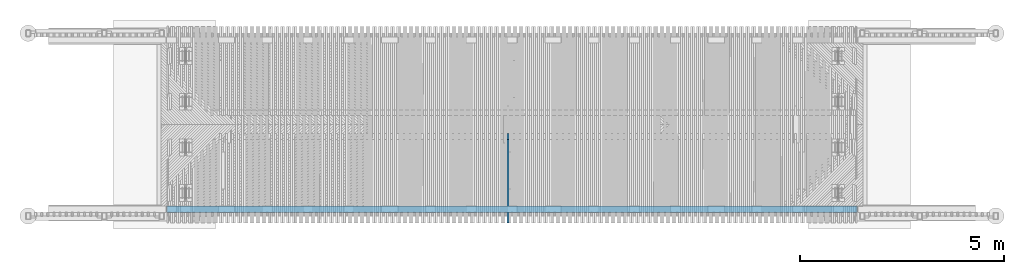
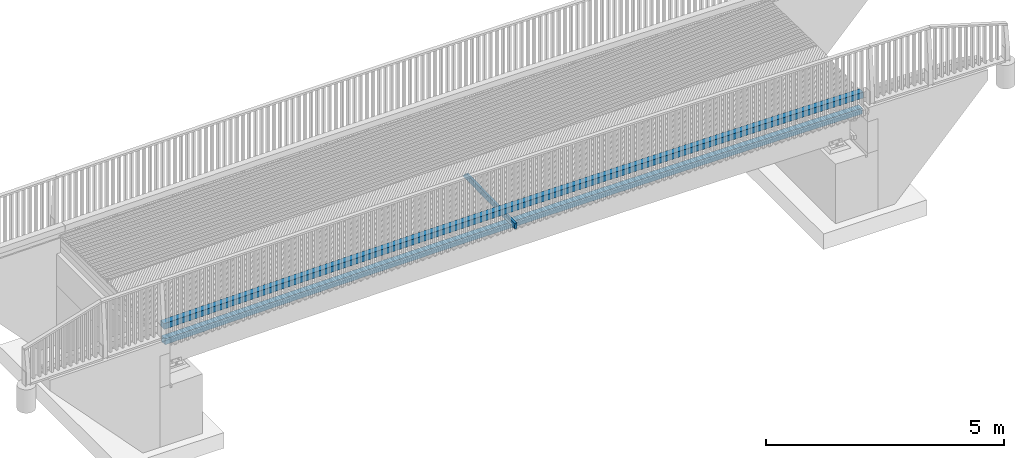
# One storey, part 22 of 47: 3 beams.
"""IFC2X3 building model written with IfcOpenShell, lengths in millimetres."""

from ifc_helpers import new_model, si_unit, frame, origin_with_axes, place, context, subcontext, project, spatial, faceted_brep, material, type_object, element, save


model = new_model("IFC2X3")

# Units and contexts
model_context = context("Model", 3, precision=1e-05, world=origin_with_axes())
body_context = subcontext(model_context, "Body", "Model", "MODEL_VIEW")
ifc_project = project(units=[si_unit("LENGTHUNIT", "METRE", prefix="MILLI"), si_unit("AREAUNIT", "SQUARE_METRE"), si_unit("VOLUMEUNIT", "CUBIC_METRE"), si_unit("MASSUNIT", "GRAM", prefix="KILO"), si_unit("TIMEUNIT", "SECOND"), si_unit("PLANEANGLEUNIT", "RADIAN"), si_unit("SOLIDANGLEUNIT", "STERADIAN"), si_unit("THERMODYNAMICTEMPERATUREUNIT", "DEGREE_CELSIUS"), si_unit("LUMINOUSINTENSITYUNIT", "LUMEN")], contexts=[model_context])

# Site, building, storey
site_placement = place(None, origin_with_axes())
site = spatial("IfcSite", under=ifc_project, at=site_placement, Name="Undefined", CompositionType="ELEMENT")
building_placement = place(site_placement, origin_with_axes())
building = spatial("IfcBuilding", under=site, at=building_placement, Name="Undefined", CompositionType="ELEMENT")
storey_placement = place(building_placement, origin_with_axes())
storey = spatial("IfcBuildingStorey", under=building, at=storey_placement, Name="Undefined", CompositionType="ELEMENT", Elevation=0.0)

# Beams
ifc_material = material(Name="TIMBER/Timber_Undefined")
beam_type_1 = type_object("IfcBeamType", Name="150*150", PredefinedType="NOTDEFINED")
beam_1_placement = place(storey_placement, frame((-101.638019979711, 60290.0049077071, 2888.62561019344), z_axis=(0.0, -1.0, 0.0), x_axis=(1.0, 0.0, 0.0)))
element("IfcBeam", 1, at=beam_1_placement, inside=storey, type_object=beam_type_1, material=ifc_material, Name="PALKKI", ObjectType="150*150", context=body_context, shape_type="Brep", body=[
    faceted_brep([(-322.982711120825, -79.4552193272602, 75.0), (-325.088810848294, 70.5299944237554, 75.0), (-347.67957067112, 70.2066726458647, 75.0), (-348.53030407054, -79.8208596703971, 75.0), (-325.088810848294, 70.5299944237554, -75.0), (-347.67957067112, 70.2066726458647, -75.0), (-322.982711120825, -79.4552193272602, -75.0), (-348.53030407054, -79.8208596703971, -75.0), (1.01255045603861, -74.9931646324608, -75.0), (1.01255045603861, -74.9931646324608, 75.0), (-1.01255045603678, 74.9931646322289, 75.0), (-1.01255045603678, 74.9931646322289, -75.0), (323.066072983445, 79.2813189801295, -75.0), (325.010174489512, -70.7060820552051, -75.0), (325.010174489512, -70.7060820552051, 75.0), (323.066072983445, 79.2813189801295, 75.0), (647.146964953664, 83.3944562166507, 75.0), (647.146964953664, 83.3944562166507, -75.0), (649.010066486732, -66.5939728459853, -75.0), (649.010066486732, -66.5939728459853, 75.0), (973.012131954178, -62.6568382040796, 75.0), (971.230030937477, 87.3325751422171, 75.0), (971.230030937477, 87.3325751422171, -75.0), (973.012131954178, -62.6568382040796, -75.0), (1297.01627639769, -58.8946792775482, -75.0), (1297.01627639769, -58.8946792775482, 75.0), (1295.3151764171, 91.0956746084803, 75.0), (1295.3151764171, 91.0956746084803, -75.0), (1619.40230687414, 94.6837535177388, -75.0), (1621.0224053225, -55.3074971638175, -75.0), (1621.0224053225, -55.3074971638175, 75.0), (1619.40230687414, 94.6837535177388, 75.0), (1943.49132778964, 98.096810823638, 75.0), (1943.49132778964, 98.096810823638, -75.0), (1945.03042423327, -51.8952929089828, -75.0), (1945.03042423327, -51.8952929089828, 75.0), (2269.04023863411, -48.6580675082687, 75.0), (2267.58214464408, 101.334845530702, 75.0), (2267.58214464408, 101.334845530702, -75.0), (2269.04023863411, -48.6580675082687, -75.0), (2593.05175402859, -45.5958219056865, -75.0), (2593.05175402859, -45.5958219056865, 75.0), (2591.67466291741, 104.397856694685, 75.0), (2591.67466291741, 104.397856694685, -75.0), (2915.7687880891, 107.285843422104, -75.0), (2917.06487591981, -42.7085569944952, -75.0), (2917.06487591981, -42.7085569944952, 75.0), (2915.7687880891, 107.285843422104, 75.0), (3239.86442563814, 109.998804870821, 75.0), (3239.86442563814, 109.998804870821, -75.0), (3241.07950981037, -39.9962736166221, -75.0), (3241.07950981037, -39.9962736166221, 75.0), (3565.09556120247, -37.4589725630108, 75.0), (3563.96148104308, 112.536740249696, 75.0), (3563.96148104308, 112.536740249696, -75.0), (3565.09556120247, -37.4589725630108, -75.0), (3889.11293559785, -35.0966545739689, -75.0), (3889.11293559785, -35.0966545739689, 75.0), (3888.05985978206, 114.899648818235, 75.0), (3888.05985978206, 114.899648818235, -75.0), (4212.15946733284, 117.087529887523, -75.0), (4213.1315384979, -32.9093203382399, -75.0), (4213.1315384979, -32.9093203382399, 75.0), (4212.15946733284, 117.087529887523, 75.0), (4536.2602091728, 119.100382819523, 75.0), (4536.2602091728, 119.100382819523, -75.0), (4537.15127540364, -30.8969704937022, -75.0), (4537.15127540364, -30.8969704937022, 75.0), (4861.17205181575, -29.0596056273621, 75.0), (4860.36199077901, 120.938207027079, 75.0), (4860.36199077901, 120.938207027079, -75.0), (4861.17205181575, -29.0596056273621, -75.0), (5185.19377323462, -27.3972262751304, -75.0), (5185.19377323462, -27.3972262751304, 75.0), (5184.46471762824, 122.601001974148, 75.0), (5184.46471762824, 122.601001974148, -75.0), (5508.56829519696, 124.088767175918, -75.0), (5509.21634516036, -25.9098329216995, -75.0), (5509.21634516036, -25.9098329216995, 75.0), (5508.56829519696, 124.088767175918, 75.0), (5832.67262896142, 125.401502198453, 75.0), (5832.67262896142, 125.401502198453, -75.0), (5833.23967309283, -24.5974260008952, -75.0), (5833.23967309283, -24.5974260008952, 75.0), (6157.26366253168, -23.4600058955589, 75.0), (6156.77762439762, 126.539206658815, 75.0), (6156.77762439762, 126.539206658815, -75.0), (6157.26366253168, -23.4600058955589, -75.0), (6481.28821897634, -22.4975729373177, -75.0), (6481.28821897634, -22.4975729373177, 75.0), (6480.88318698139, 127.501880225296, 75.0), (6480.88318698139, 127.501880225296, -75.0), (6804.9892221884, 128.289522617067, -75.0), (6805.3132479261, -21.7101274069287, -75.0), (6805.3132479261, -21.7101274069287, 75.0), (6804.9892221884, 128.289522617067, 75.0), (7129.09563549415, 128.902133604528, 75.0), (7129.09563549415, 128.902133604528, -75.0), (7129.33865488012, -21.0976695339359, -75.0), (7129.33865488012, -21.0976695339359, 75.0), (7453.36434533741, -20.6601994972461, 75.0), (7453.20233237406, 129.339713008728, 75.0), (7453.20233237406, 129.339713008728, -75.0), (7453.36434533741, -20.6601994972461, -75.0), (7777.39022479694, -20.3977174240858, -75.0), (7777.39022479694, -20.3977174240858, 75.0), (7777.30921830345, 129.602260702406, 75.0), (7777.30921830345, 129.602260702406, -75.0), (8101.4161987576, 129.689776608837, -75.0), (8101.4161987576, -20.3102233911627, -75.0), (8101.4161987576, -20.3102233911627, 75.0), (8101.4161987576, 129.689776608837, 75.0), (8425.52317921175, 129.602260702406, 75.0), (8425.52317921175, 129.602260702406, -75.0), (8425.44217271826, -20.3977174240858, -75.0), (8425.44217271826, -20.3977174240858, 75.0), (8749.46805217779, -20.6601994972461, 75.0), (8749.63006514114, 129.339713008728, 75.0), (8749.63006514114, 129.339713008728, -75.0), (8749.46805217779, -20.6601994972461, -75.0), (9073.49374263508, -21.0976695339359, -75.0), (9073.49374263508, -21.0976695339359, 75.0), (9073.73676202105, 128.902133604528, 75.0), (9073.73676202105, 128.902133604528, -75.0), (9397.8431753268, 128.289522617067, -75.0), (9397.5191495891, -21.7101274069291, -75.0), (9397.5191495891, -21.7101274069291, 75.0), (9397.8431753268, 128.289522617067, 75.0), (9721.94921053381, 127.501880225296, 75.0), (9721.94921053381, 127.501880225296, -75.0), (9721.54417853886, -22.4975729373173, -75.0), (9721.54417853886, -22.4975729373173, 75.0), (10045.5687349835, -23.4600058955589, 75.0), (10046.0547731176, 126.539206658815, 75.0), (10046.0547731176, 126.539206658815, -75.0), (10045.5687349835, -23.4600058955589, -75.0), (10369.5927244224, -24.5974260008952, -75.0), (10369.5927244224, -24.5974260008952, 75.0), (10370.1597685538, 125.401502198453, 75.0), (10370.1597685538, 125.401502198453, -75.0), (10694.2641023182, 124.088767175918, -75.0), (10693.6160523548, -25.9098329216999, -75.0), (10693.6160523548, -25.9098329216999, 75.0), (10694.2641023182, 124.088767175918, 75.0), (11018.367679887, 122.601001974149, 75.0), (11018.367679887, 122.601001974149, -75.0), (11017.6386242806, -27.3972262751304, -75.0), (11017.6386242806, -27.3972262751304, 75.0), (11341.6603456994, -29.0596056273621, 75.0), (11342.4704067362, 120.938207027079, 75.0), (11342.4704067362, 120.938207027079, -75.0), (11341.6603456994, -29.0596056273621, -75.0), (11665.6811221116, -30.8969704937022, -75.0), (11665.6811221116, -30.8969704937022, 75.0), (11666.5721883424, 119.100382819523, 75.0), (11666.5721883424, 119.100382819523, -75.0), (11990.6729301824, 117.087529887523, -75.0), (11989.7008590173, -32.9093203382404, -75.0), (11989.7008590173, -32.9093203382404, 75.0), (11990.6729301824, 117.087529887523, 75.0), (12314.7725377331, 114.899648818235, 75.0), (12314.7725377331, 114.899648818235, -75.0), (12313.7194619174, -35.0966545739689, -75.0), (12313.7194619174, -35.0966545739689, 75.0), (12637.7368363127, -37.4589725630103, 75.0), (12638.8709164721, 112.536740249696, 75.0), (12638.8709164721, 112.536740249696, -75.0), (12637.7368363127, -37.4589725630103, -75.0), (12961.7528877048, -39.9962736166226, -75.0), (12961.7528877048, -39.9962736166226, 75.0), (12962.9679718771, 109.998804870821, 75.0), (12962.9679718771, 109.998804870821, -75.0), (13287.0636094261, 107.285843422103, -75.0), (13285.7675215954, -42.7085569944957, -75.0), (13285.7675215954, -42.7085569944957, 75.0), (13287.0636094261, 107.285843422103, 75.0), (13611.1577345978, 104.397856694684, 75.0), (13611.1577345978, 104.397856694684, -75.0), (13609.7806434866, -45.595821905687, -75.0), (13609.7806434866, -45.595821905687, 75.0), (13933.7921588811, -48.6580675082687, 75.0), (13935.2502528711, 101.334845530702, 75.0), (13935.2502528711, 101.334845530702, -75.0), (13933.7921588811, -48.6580675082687, -75.0), (14257.8019732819, -51.8952929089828, -75.0), (14257.8019732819, -51.8952929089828, 75.0), (14259.3410697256, 98.096810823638, 75.0), (14259.3410697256, 98.096810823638, -75.0), (14583.4300906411, 94.6837535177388, -75.0), (14581.8099921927, -55.307497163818, -75.0), (14581.8099921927, -55.307497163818, 75.0), (14583.4300906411, 94.6837535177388, 75.0), (14907.5172210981, 91.0956746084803, 75.0), (14907.5172210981, 91.0956746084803, -75.0), (14905.8161211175, -58.8946792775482, -75.0), (14905.8161211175, -58.8946792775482, 75.0), (15229.820265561, -62.6568382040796, 75.0), (15231.6023665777, 87.3325751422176, 75.0), (15231.6023665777, 87.3325751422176, -75.0), (15229.820265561, -62.6568382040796, -75.0), (15553.8223310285, -66.5939728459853, -75.0), (15553.8223310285, -66.5939728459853, 75.0), (15555.6854325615, 83.3944562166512, 75.0), (15555.6854325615, 83.3944562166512, -75.0), (15879.7663245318, 79.2813189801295, -75.0), (15877.8222230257, -70.7060820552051, -75.0), (15877.8222230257, -70.7060820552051, 75.0), (15879.7663245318, 79.2813189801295, 75.0), (16203.8449479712, 74.9931646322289, 75.0), (16203.8449479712, 74.9931646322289, -75.0), (16201.8198470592, -74.9931646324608, -75.0), (16201.8198470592, -74.9931646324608, 75.0), (16513.3537972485, -79.2803664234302, 75.0), (16515.4567816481, 70.7048910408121, 75.0), (16515.4567816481, 70.7048910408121, -75.0), (16513.3537972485, -79.2803664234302, -75.0), (16551.7866037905, -79.8292238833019, -75.0), (16551.7866037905, -79.8292238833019, 75.0), (16550.9356215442, 70.1982190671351, 75.0), (16550.9356215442, 70.1982190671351, -75.0)], [[[0, 1, 2, 3]], [[1, 4, 5, 2]], [[4, 6, 7, 5]], [[3, 2, 5, 7]], [[6, 0, 3, 7]], [[0, 6, 8, 9]], [[1, 0, 9, 10]], [[4, 1, 10, 11]], [[6, 4, 11, 8]], [[8, 11, 12, 13]], [[9, 8, 13, 14]], [[10, 9, 14, 15]], [[11, 10, 15, 12]], [[12, 15, 16, 17]], [[13, 12, 17, 18]], [[14, 13, 18, 19]], [[15, 14, 19, 16]], [[16, 19, 20, 21]], [[17, 16, 21, 22]], [[18, 17, 22, 23]], [[19, 18, 23, 20]], [[20, 23, 24, 25]], [[21, 20, 25, 26]], [[22, 21, 26, 27]], [[23, 22, 27, 24]], [[24, 27, 28, 29]], [[25, 24, 29, 30]], [[26, 25, 30, 31]], [[27, 26, 31, 28]], [[28, 31, 32, 33]], [[29, 28, 33, 34]], [[30, 29, 34, 35]], [[31, 30, 35, 32]], [[32, 35, 36, 37]], [[33, 32, 37, 38]], [[34, 33, 38, 39]], [[35, 34, 39, 36]], [[36, 39, 40, 41]], [[37, 36, 41, 42]], [[38, 37, 42, 43]], [[39, 38, 43, 40]], [[40, 43, 44, 45]], [[41, 40, 45, 46]], [[42, 41, 46, 47]], [[43, 42, 47, 44]], [[44, 47, 48, 49]], [[45, 44, 49, 50]], [[46, 45, 50, 51]], [[47, 46, 51, 48]], [[48, 51, 52, 53]], [[49, 48, 53, 54]], [[50, 49, 54, 55]], [[51, 50, 55, 52]], [[52, 55, 56, 57]], [[53, 52, 57, 58]], [[54, 53, 58, 59]], [[55, 54, 59, 56]], [[56, 59, 60, 61]], [[57, 56, 61, 62]], [[58, 57, 62, 63]], [[59, 58, 63, 60]], [[60, 63, 64, 65]], [[61, 60, 65, 66]], [[62, 61, 66, 67]], [[63, 62, 67, 64]], [[64, 67, 68, 69]], [[65, 64, 69, 70]], [[66, 65, 70, 71]], [[67, 66, 71, 68]], [[68, 71, 72, 73]], [[69, 68, 73, 74]], [[70, 69, 74, 75]], [[71, 70, 75, 72]], [[72, 75, 76, 77]], [[73, 72, 77, 78]], [[74, 73, 78, 79]], [[75, 74, 79, 76]], [[76, 79, 80, 81]], [[77, 76, 81, 82]], [[78, 77, 82, 83]], [[79, 78, 83, 80]], [[80, 83, 84, 85]], [[81, 80, 85, 86]], [[82, 81, 86, 87]], [[83, 82, 87, 84]], [[84, 87, 88, 89]], [[85, 84, 89, 90]], [[86, 85, 90, 91]], [[87, 86, 91, 88]], [[88, 91, 92, 93]], [[89, 88, 93, 94]], [[90, 89, 94, 95]], [[91, 90, 95, 92]], [[92, 95, 96, 97]], [[93, 92, 97, 98]], [[94, 93, 98, 99]], [[95, 94, 99, 96]], [[96, 99, 100, 101]], [[97, 96, 101, 102]], [[98, 97, 102, 103]], [[99, 98, 103, 100]], [[100, 103, 104, 105]], [[101, 100, 105, 106]], [[102, 101, 106, 107]], [[103, 102, 107, 104]], [[104, 107, 108, 109]], [[105, 104, 109, 110]], [[106, 105, 110, 111]], [[107, 106, 111, 108]], [[108, 111, 112, 113]], [[109, 108, 113, 114]], [[110, 109, 114, 115]], [[111, 110, 115, 112]], [[112, 115, 116, 117]], [[113, 112, 117, 118]], [[114, 113, 118, 119]], [[115, 114, 119, 116]], [[116, 119, 120, 121]], [[117, 116, 121, 122]], [[118, 117, 122, 123]], [[119, 118, 123, 120]], [[120, 123, 124, 125]], [[121, 120, 125, 126]], [[122, 121, 126, 127]], [[123, 122, 127, 124]], [[124, 127, 128, 129]], [[125, 124, 129, 130]], [[126, 125, 130, 131]], [[127, 126, 131, 128]], [[128, 131, 132, 133]], [[129, 128, 133, 134]], [[130, 129, 134, 135]], [[131, 130, 135, 132]], [[132, 135, 136, 137]], [[133, 132, 137, 138]], [[134, 133, 138, 139]], [[135, 134, 139, 136]], [[136, 139, 140, 141]], [[137, 136, 141, 142]], [[138, 137, 142, 143]], [[139, 138, 143, 140]], [[140, 143, 144, 145]], [[141, 140, 145, 146]], [[142, 141, 146, 147]], [[143, 142, 147, 144]], [[144, 147, 148, 149]], [[145, 144, 149, 150]], [[146, 145, 150, 151]], [[147, 146, 151, 148]], [[148, 151, 152, 153]], [[149, 148, 153, 154]], [[150, 149, 154, 155]], [[151, 150, 155, 152]], [[152, 155, 156, 157]], [[153, 152, 157, 158]], [[154, 153, 158, 159]], [[155, 154, 159, 156]], [[156, 159, 160, 161]], [[157, 156, 161, 162]], [[158, 157, 162, 163]], [[159, 158, 163, 160]], [[160, 163, 164, 165]], [[161, 160, 165, 166]], [[162, 161, 166, 167]], [[163, 162, 167, 164]], [[164, 167, 168, 169]], [[165, 164, 169, 170]], [[166, 165, 170, 171]], [[167, 166, 171, 168]], [[168, 171, 172, 173]], [[169, 168, 173, 174]], [[170, 169, 174, 175]], [[171, 170, 175, 172]], [[172, 175, 176, 177]], [[173, 172, 177, 178]], [[174, 173, 178, 179]], [[175, 174, 179, 176]], [[176, 179, 180, 181]], [[177, 176, 181, 182]], [[178, 177, 182, 183]], [[179, 178, 183, 180]], [[180, 183, 184, 185]], [[181, 180, 185, 186]], [[182, 181, 186, 187]], [[183, 182, 187, 184]], [[184, 187, 188, 189]], [[185, 184, 189, 190]], [[186, 185, 190, 191]], [[187, 186, 191, 188]], [[188, 191, 192, 193]], [[189, 188, 193, 194]], [[190, 189, 194, 195]], [[191, 190, 195, 192]], [[192, 195, 196, 197]], [[193, 192, 197, 198]], [[194, 193, 198, 199]], [[195, 194, 199, 196]], [[196, 199, 200, 201]], [[197, 196, 201, 202]], [[198, 197, 202, 203]], [[199, 198, 203, 200]], [[200, 203, 204, 205]], [[201, 200, 205, 206]], [[202, 201, 206, 207]], [[203, 202, 207, 204]], [[204, 207, 208, 209]], [[205, 204, 209, 210]], [[206, 205, 210, 211]], [[207, 206, 211, 208]], [[208, 211, 212, 213]], [[209, 208, 213, 214]], [[210, 209, 214, 215]], [[211, 210, 215, 212]], [[212, 215, 216, 217]], [[213, 212, 217, 218]], [[214, 213, 218, 219]], [[215, 214, 219, 216]], [[218, 217, 216, 219]]]),
])
beam_2_placement = place(storey_placement, frame((-101.638019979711, 60290.0049077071, 3288.62561019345), z_axis=(0.0, -1.0, 0.0), x_axis=(1.0, 0.0, 0.0)))
element("IfcBeam", 2, at=beam_2_placement, inside=storey, type_object=beam_type_1, material=ifc_material, Name="TÖRMÄYSJOHDE", ObjectType="150*150", context=body_context, shape_type="Brep", body=[
    faceted_brep([(-322.982711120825, -79.4552193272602, 75.0), (-325.088810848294, 70.5299944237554, 75.0), (-367.511180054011, 69.9228401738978, 75.0), (-368.361913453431, -80.1046921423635, 75.0), (-325.088810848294, 70.5299944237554, -75.0), (-367.511180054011, 69.9228401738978, -75.0), (-322.982711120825, -79.4552193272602, -75.0), (-368.361913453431, -80.1046921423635, -75.0), (1.01255045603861, -74.9931646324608, -75.0), (1.01255045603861, -74.9931646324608, 75.0), (-1.01255045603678, 74.9931646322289, 75.0), (-1.01255045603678, 74.9931646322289, -75.0), (323.066072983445, 79.2813189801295, -75.0), (325.010174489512, -70.7060820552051, -75.0), (325.010174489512, -70.7060820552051, 75.0), (323.066072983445, 79.2813189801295, 75.0), (647.146964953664, 83.3944562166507, 75.0), (647.146964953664, 83.3944562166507, -75.0), (649.010066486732, -66.5939728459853, -75.0), (649.010066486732, -66.5939728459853, 75.0), (973.012131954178, -62.6568382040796, 75.0), (971.230030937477, 87.3325751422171, 75.0), (971.230030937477, 87.3325751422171, -75.0), (973.012131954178, -62.6568382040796, -75.0), (1297.01627639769, -58.8946792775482, -75.0), (1297.01627639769, -58.8946792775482, 75.0), (1295.3151764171, 91.0956746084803, 75.0), (1295.3151764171, 91.0956746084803, -75.0), (1619.40230687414, 94.6837535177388, -75.0), (1621.0224053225, -55.3074971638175, -75.0), (1621.0224053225, -55.3074971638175, 75.0), (1619.40230687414, 94.6837535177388, 75.0), (1943.49132778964, 98.096810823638, 75.0), (1943.49132778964, 98.096810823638, -75.0), (1945.03042423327, -51.8952929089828, -75.0), (1945.03042423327, -51.8952929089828, 75.0), (2269.04023863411, -48.6580675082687, 75.0), (2267.58214464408, 101.334845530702, 75.0), (2267.58214464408, 101.334845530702, -75.0), (2269.04023863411, -48.6580675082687, -75.0), (2593.05175402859, -45.5958219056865, -75.0), (2593.05175402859, -45.5958219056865, 75.0), (2591.67466291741, 104.397856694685, 75.0), (2591.67466291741, 104.397856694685, -75.0), (2915.7687880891, 107.285843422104, -75.0), (2917.06487591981, -42.7085569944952, -75.0), (2917.06487591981, -42.7085569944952, 75.0), (2915.7687880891, 107.285843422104, 75.0), (3239.86442563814, 109.998804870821, 75.0), (3239.86442563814, 109.998804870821, -75.0), (3241.07950981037, -39.9962736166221, -75.0), (3241.07950981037, -39.9962736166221, 75.0), (3565.09556120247, -37.4589725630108, 75.0), (3563.96148104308, 112.536740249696, 75.0), (3563.96148104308, 112.536740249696, -75.0), (3565.09556120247, -37.4589725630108, -75.0), (3889.11293559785, -35.0966545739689, -75.0), (3889.11293559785, -35.0966545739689, 75.0), (3888.05985978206, 114.899648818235, 75.0), (3888.05985978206, 114.899648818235, -75.0), (4212.15946733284, 117.087529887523, -75.0), (4213.1315384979, -32.9093203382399, -75.0), (4213.1315384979, -32.9093203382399, 75.0), (4212.15946733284, 117.087529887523, 75.0), (4536.2602091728, 119.100382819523, 75.0), (4536.2602091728, 119.100382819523, -75.0), (4537.15127540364, -30.8969704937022, -75.0), (4537.15127540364, -30.8969704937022, 75.0), (4861.17205181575, -29.0596056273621, 75.0), (4860.36199077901, 120.938207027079, 75.0), (4860.36199077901, 120.938207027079, -75.0), (4861.17205181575, -29.0596056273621, -75.0), (5185.19377323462, -27.3972262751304, -75.0), (5185.19377323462, -27.3972262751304, 75.0), (5184.46471762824, 122.601001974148, 75.0), (5184.46471762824, 122.601001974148, -75.0), (5508.56829519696, 124.088767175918, -75.0), (5509.21634516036, -25.9098329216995, -75.0), (5509.21634516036, -25.9098329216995, 75.0), (5508.56829519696, 124.088767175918, 75.0), (5832.67262896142, 125.401502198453, 75.0), (5832.67262896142, 125.401502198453, -75.0), (5833.23967309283, -24.5974260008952, -75.0), (5833.23967309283, -24.5974260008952, 75.0), (6157.26366253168, -23.4600058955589, 75.0), (6156.77762439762, 126.539206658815, 75.0), (6156.77762439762, 126.539206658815, -75.0), (6157.26366253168, -23.4600058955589, -75.0), (6481.28821897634, -22.4975729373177, -75.0), (6481.28821897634, -22.4975729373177, 75.0), (6480.88318698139, 127.501880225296, 75.0), (6480.88318698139, 127.501880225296, -75.0), (6804.9892221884, 128.289522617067, -75.0), (6805.3132479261, -21.7101274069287, -75.0), (6805.3132479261, -21.7101274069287, 75.0), (6804.9892221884, 128.289522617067, 75.0), (7129.09563549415, 128.902133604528, 75.0), (7129.09563549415, 128.902133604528, -75.0), (7129.33865488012, -21.0976695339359, -75.0), (7129.33865488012, -21.0976695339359, 75.0), (7453.36434533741, -20.6601994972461, 75.0), (7453.20233237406, 129.339713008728, 75.0), (7453.20233237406, 129.339713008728, -75.0), (7453.36434533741, -20.6601994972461, -75.0), (7777.39022479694, -20.3977174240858, -75.0), (7777.39022479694, -20.3977174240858, 75.0), (7777.30921830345, 129.602260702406, 75.0), (7777.30921830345, 129.602260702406, -75.0), (8101.4161987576, 129.689776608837, -75.0), (8101.4161987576, -20.3102233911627, -75.0), (8101.4161987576, -20.3102233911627, 75.0), (8101.4161987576, 129.689776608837, 75.0), (8425.52317921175, 129.602260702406, 75.0), (8425.52317921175, 129.602260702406, -75.0), (8425.44217271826, -20.3977174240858, -75.0), (8425.44217271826, -20.3977174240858, 75.0), (8749.46805217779, -20.6601994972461, 75.0), (8749.63006514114, 129.339713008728, 75.0), (8749.63006514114, 129.339713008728, -75.0), (8749.46805217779, -20.6601994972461, -75.0), (9073.49374263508, -21.0976695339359, -75.0), (9073.49374263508, -21.0976695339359, 75.0), (9073.73676202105, 128.902133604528, 75.0), (9073.73676202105, 128.902133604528, -75.0), (9397.8431753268, 128.289522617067, -75.0), (9397.5191495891, -21.7101274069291, -75.0), (9397.5191495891, -21.7101274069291, 75.0), (9397.8431753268, 128.289522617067, 75.0), (9721.94921053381, 127.501880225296, 75.0), (9721.94921053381, 127.501880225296, -75.0), (9721.54417853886, -22.4975729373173, -75.0), (9721.54417853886, -22.4975729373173, 75.0), (10045.5687349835, -23.4600058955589, 75.0), (10046.0547731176, 126.539206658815, 75.0), (10046.0547731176, 126.539206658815, -75.0), (10045.5687349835, -23.4600058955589, -75.0), (10369.5927244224, -24.5974260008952, -75.0), (10369.5927244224, -24.5974260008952, 75.0), (10370.1597685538, 125.401502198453, 75.0), (10370.1597685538, 125.401502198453, -75.0), (10694.2641023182, 124.088767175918, -75.0), (10693.6160523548, -25.9098329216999, -75.0), (10693.6160523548, -25.9098329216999, 75.0), (10694.2641023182, 124.088767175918, 75.0), (11018.367679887, 122.601001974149, 75.0), (11018.367679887, 122.601001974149, -75.0), (11017.6386242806, -27.3972262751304, -75.0), (11017.6386242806, -27.3972262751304, 75.0), (11341.6603456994, -29.0596056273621, 75.0), (11342.4704067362, 120.938207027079, 75.0), (11342.4704067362, 120.938207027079, -75.0), (11341.6603456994, -29.0596056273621, -75.0), (11665.6811221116, -30.8969704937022, -75.0), (11665.6811221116, -30.8969704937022, 75.0), (11666.5721883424, 119.100382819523, 75.0), (11666.5721883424, 119.100382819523, -75.0), (11990.6729301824, 117.087529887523, -75.0), (11989.7008590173, -32.9093203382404, -75.0), (11989.7008590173, -32.9093203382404, 75.0), (11990.6729301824, 117.087529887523, 75.0), (12314.7725377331, 114.899648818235, 75.0), (12314.7725377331, 114.899648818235, -75.0), (12313.7194619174, -35.0966545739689, -75.0), (12313.7194619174, -35.0966545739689, 75.0), (12637.7368363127, -37.4589725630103, 75.0), (12638.8709164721, 112.536740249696, 75.0), (12638.8709164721, 112.536740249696, -75.0), (12637.7368363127, -37.4589725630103, -75.0), (12961.7528877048, -39.9962736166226, -75.0), (12961.7528877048, -39.9962736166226, 75.0), (12962.9679718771, 109.998804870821, 75.0), (12962.9679718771, 109.998804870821, -75.0), (13287.0636094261, 107.285843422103, -75.0), (13285.7675215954, -42.7085569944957, -75.0), (13285.7675215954, -42.7085569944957, 75.0), (13287.0636094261, 107.285843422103, 75.0), (13611.1577345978, 104.397856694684, 75.0), (13611.1577345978, 104.397856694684, -75.0), (13609.7806434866, -45.595821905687, -75.0), (13609.7806434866, -45.595821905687, 75.0), (13933.7921588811, -48.6580675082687, 75.0), (13935.2502528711, 101.334845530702, 75.0), (13935.2502528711, 101.334845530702, -75.0), (13933.7921588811, -48.6580675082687, -75.0), (14257.8019732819, -51.8952929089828, -75.0), (14257.8019732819, -51.8952929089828, 75.0), (14259.3410697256, 98.096810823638, 75.0), (14259.3410697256, 98.096810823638, -75.0), (14583.4300906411, 94.6837535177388, -75.0), (14581.8099921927, -55.307497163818, -75.0), (14581.8099921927, -55.307497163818, 75.0), (14583.4300906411, 94.6837535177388, 75.0), (14907.5172210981, 91.0956746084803, 75.0), (14907.5172210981, 91.0956746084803, -75.0), (14905.8161211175, -58.8946792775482, -75.0), (14905.8161211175, -58.8946792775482, 75.0), (15229.820265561, -62.6568382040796, 75.0), (15231.6023665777, 87.3325751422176, 75.0), (15231.6023665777, 87.3325751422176, -75.0), (15229.820265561, -62.6568382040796, -75.0), (15553.8223310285, -66.5939728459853, -75.0), (15553.8223310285, -66.5939728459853, 75.0), (15555.6854325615, 83.3944562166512, 75.0), (15555.6854325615, 83.3944562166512, -75.0), (15879.7663245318, 79.2813189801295, -75.0), (15877.8222230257, -70.7060820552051, -75.0), (15877.8222230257, -70.7060820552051, 75.0), (15879.7663245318, 79.2813189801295, 75.0), (16203.8449479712, 74.9931646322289, 75.0), (16203.8449479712, 74.9931646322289, -75.0), (16201.8198470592, -74.9931646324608, -75.0), (16201.8198470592, -74.9931646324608, 75.0), (16513.3537972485, -79.2803664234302, 75.0), (16515.4567816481, 70.7048910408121, 75.0), (16515.4567816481, 70.7048910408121, -75.0), (16513.3537972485, -79.2803664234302, -75.0), (16571.6382119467, -80.1127239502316, -75.0), (16571.6382119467, -80.1127239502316, 75.0), (16570.7872297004, 69.9147190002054, 75.0), (16570.7872297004, 69.9147190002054, -75.0)], [[[0, 1, 2, 3]], [[1, 4, 5, 2]], [[4, 6, 7, 5]], [[3, 2, 5, 7]], [[6, 0, 3, 7]], [[0, 6, 8, 9]], [[1, 0, 9, 10]], [[4, 1, 10, 11]], [[6, 4, 11, 8]], [[8, 11, 12, 13]], [[9, 8, 13, 14]], [[10, 9, 14, 15]], [[11, 10, 15, 12]], [[12, 15, 16, 17]], [[13, 12, 17, 18]], [[14, 13, 18, 19]], [[15, 14, 19, 16]], [[16, 19, 20, 21]], [[17, 16, 21, 22]], [[18, 17, 22, 23]], [[19, 18, 23, 20]], [[20, 23, 24, 25]], [[21, 20, 25, 26]], [[22, 21, 26, 27]], [[23, 22, 27, 24]], [[24, 27, 28, 29]], [[25, 24, 29, 30]], [[26, 25, 30, 31]], [[27, 26, 31, 28]], [[28, 31, 32, 33]], [[29, 28, 33, 34]], [[30, 29, 34, 35]], [[31, 30, 35, 32]], [[32, 35, 36, 37]], [[33, 32, 37, 38]], [[34, 33, 38, 39]], [[35, 34, 39, 36]], [[36, 39, 40, 41]], [[37, 36, 41, 42]], [[38, 37, 42, 43]], [[39, 38, 43, 40]], [[40, 43, 44, 45]], [[41, 40, 45, 46]], [[42, 41, 46, 47]], [[43, 42, 47, 44]], [[44, 47, 48, 49]], [[45, 44, 49, 50]], [[46, 45, 50, 51]], [[47, 46, 51, 48]], [[48, 51, 52, 53]], [[49, 48, 53, 54]], [[50, 49, 54, 55]], [[51, 50, 55, 52]], [[52, 55, 56, 57]], [[53, 52, 57, 58]], [[54, 53, 58, 59]], [[55, 54, 59, 56]], [[56, 59, 60, 61]], [[57, 56, 61, 62]], [[58, 57, 62, 63]], [[59, 58, 63, 60]], [[60, 63, 64, 65]], [[61, 60, 65, 66]], [[62, 61, 66, 67]], [[63, 62, 67, 64]], [[64, 67, 68, 69]], [[65, 64, 69, 70]], [[66, 65, 70, 71]], [[67, 66, 71, 68]], [[68, 71, 72, 73]], [[69, 68, 73, 74]], [[70, 69, 74, 75]], [[71, 70, 75, 72]], [[72, 75, 76, 77]], [[73, 72, 77, 78]], [[74, 73, 78, 79]], [[75, 74, 79, 76]], [[76, 79, 80, 81]], [[77, 76, 81, 82]], [[78, 77, 82, 83]], [[79, 78, 83, 80]], [[80, 83, 84, 85]], [[81, 80, 85, 86]], [[82, 81, 86, 87]], [[83, 82, 87, 84]], [[84, 87, 88, 89]], [[85, 84, 89, 90]], [[86, 85, 90, 91]], [[87, 86, 91, 88]], [[88, 91, 92, 93]], [[89, 88, 93, 94]], [[90, 89, 94, 95]], [[91, 90, 95, 92]], [[92, 95, 96, 97]], [[93, 92, 97, 98]], [[94, 93, 98, 99]], [[95, 94, 99, 96]], [[96, 99, 100, 101]], [[97, 96, 101, 102]], [[98, 97, 102, 103]], [[99, 98, 103, 100]], [[100, 103, 104, 105]], [[101, 100, 105, 106]], [[102, 101, 106, 107]], [[103, 102, 107, 104]], [[104, 107, 108, 109]], [[105, 104, 109, 110]], [[106, 105, 110, 111]], [[107, 106, 111, 108]], [[108, 111, 112, 113]], [[109, 108, 113, 114]], [[110, 109, 114, 115]], [[111, 110, 115, 112]], [[112, 115, 116, 117]], [[113, 112, 117, 118]], [[114, 113, 118, 119]], [[115, 114, 119, 116]], [[116, 119, 120, 121]], [[117, 116, 121, 122]], [[118, 117, 122, 123]], [[119, 118, 123, 120]], [[120, 123, 124, 125]], [[121, 120, 125, 126]], [[122, 121, 126, 127]], [[123, 122, 127, 124]], [[124, 127, 128, 129]], [[125, 124, 129, 130]], [[126, 125, 130, 131]], [[127, 126, 131, 128]], [[128, 131, 132, 133]], [[129, 128, 133, 134]], [[130, 129, 134, 135]], [[131, 130, 135, 132]], [[132, 135, 136, 137]], [[133, 132, 137, 138]], [[134, 133, 138, 139]], [[135, 134, 139, 136]], [[136, 139, 140, 141]], [[137, 136, 141, 142]], [[138, 137, 142, 143]], [[139, 138, 143, 140]], [[140, 143, 144, 145]], [[141, 140, 145, 146]], [[142, 141, 146, 147]], [[143, 142, 147, 144]], [[144, 147, 148, 149]], [[145, 144, 149, 150]], [[146, 145, 150, 151]], [[147, 146, 151, 148]], [[148, 151, 152, 153]], [[149, 148, 153, 154]], [[150, 149, 154, 155]], [[151, 150, 155, 152]], [[152, 155, 156, 157]], [[153, 152, 157, 158]], [[154, 153, 158, 159]], [[155, 154, 159, 156]], [[156, 159, 160, 161]], [[157, 156, 161, 162]], [[158, 157, 162, 163]], [[159, 158, 163, 160]], [[160, 163, 164, 165]], [[161, 160, 165, 166]], [[162, 161, 166, 167]], [[163, 162, 167, 164]], [[164, 167, 168, 169]], [[165, 164, 169, 170]], [[166, 165, 170, 171]], [[167, 166, 171, 168]], [[168, 171, 172, 173]], [[169, 168, 173, 174]], [[170, 169, 174, 175]], [[171, 170, 175, 172]], [[172, 175, 176, 177]], [[173, 172, 177, 178]], [[174, 173, 178, 179]], [[175, 174, 179, 176]], [[176, 179, 180, 181]], [[177, 176, 181, 182]], [[178, 177, 182, 183]], [[179, 178, 183, 180]], [[180, 183, 184, 185]], [[181, 180, 185, 186]], [[182, 181, 186, 187]], [[183, 182, 187, 184]], [[184, 187, 188, 189]], [[185, 184, 189, 190]], [[186, 185, 190, 191]], [[187, 186, 191, 188]], [[188, 191, 192, 193]], [[189, 188, 193, 194]], [[190, 189, 194, 195]], [[191, 190, 195, 192]], [[192, 195, 196, 197]], [[193, 192, 197, 198]], [[194, 193, 198, 199]], [[195, 194, 199, 196]], [[196, 199, 200, 201]], [[197, 196, 201, 202]], [[198, 197, 202, 203]], [[199, 198, 203, 200]], [[200, 203, 204, 205]], [[201, 200, 205, 206]], [[202, 201, 206, 207]], [[203, 202, 207, 204]], [[204, 207, 208, 209]], [[205, 204, 209, 210]], [[206, 205, 210, 211]], [[207, 206, 211, 208]], [[208, 211, 212, 213]], [[209, 208, 213, 214]], [[210, 209, 214, 215]], [[211, 210, 215, 212]], [[212, 215, 216, 217]], [[213, 212, 217, 218]], [[214, 213, 218, 219]], [[215, 214, 219, 216]], [[218, 217, 216, 219]]]),
])
beam_type_2 = type_object("IfcBeamType", Name="150*50", PredefinedType="NOTDEFINED")
beam_3_placement = place(storey_placement, frame((7899.92778764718, 59958.5561921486, 3087.98183483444), z_axis=(-0.000246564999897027, -0.0199960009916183, 0.999800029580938), x_axis=(-4.93100000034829e-06, 0.999800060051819, 0.0199959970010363)))
element("IfcBeam", 3, at=beam_3_placement, inside=storey, type_object=beam_type_2, material=ifc_material, Name="BEAM", ObjectType="150*50", context=body_context, shape_type="Brep", body=[
    faceted_brep([(6.18456397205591e-09, -24.9999999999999, -75.0000000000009), (-6.1918399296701e-09, -24.9999999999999, 74.9999999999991), (-6.19911588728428e-09, 25.0, 75.0), (6.18456397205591e-09, 24.9999999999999, -75.0), (2186.42645915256, -25.0000000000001, -75.0), (2047.96936034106, -25.0000000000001, 75.0), (2047.96935975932, 25.0, 75.0), (2186.42645864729, 25.0, -75.0)], [[[0, 1, 2, 3]], [[1, 0, 4, 5]], [[2, 1, 5, 6]], [[3, 2, 6, 7]], [[0, 3, 7, 4]], [[5, 4, 7, 6]]]),
])

save(model, "model.ifc")
